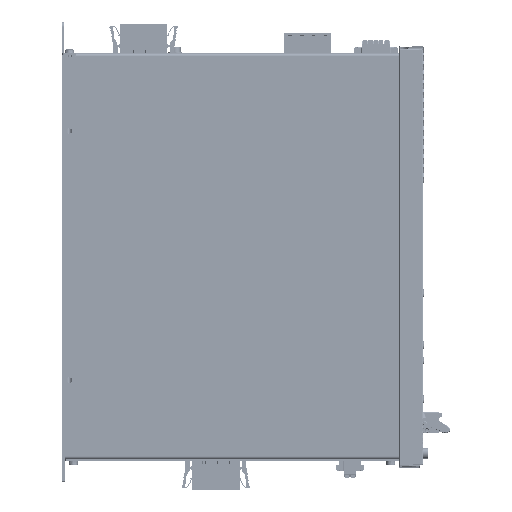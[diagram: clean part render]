
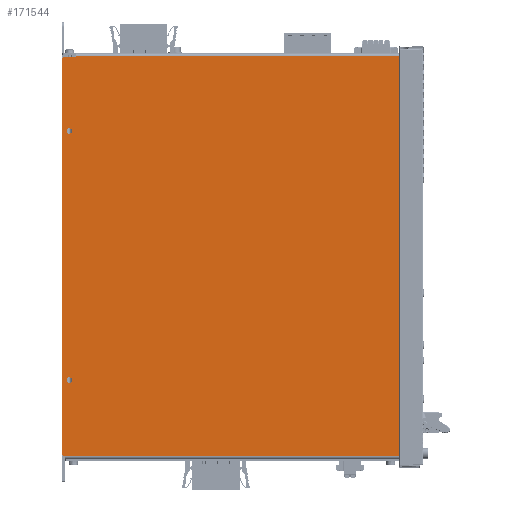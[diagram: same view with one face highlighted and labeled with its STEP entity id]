
A CAD part, left-side view. The second image highlights one B-rep face of the part: STEP entity #171544.
In plain terms, the highlighted planar face has unit normal (-1, 0, 0).
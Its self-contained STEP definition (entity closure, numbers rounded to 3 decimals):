
#83266=LINE('',#683676,#120682);
#83283=LINE('',#683721,#120699);
#83286=LINE('',#683727,#120702);
#83482=LINE('',#684172,#120898);
#85083=LINE('',#687430,#122499);
#85084=LINE('',#687432,#122500);
#85085=LINE('',#687434,#122501);
#85086=LINE('',#687435,#122502);
#85087=LINE('',#687437,#122503);
#85088=LINE('',#687439,#122504);
#85089=LINE('',#687444,#122505);
#85090=LINE('',#687446,#122506);
#85091=LINE('',#687448,#122507);
#85092=LINE('',#687449,#122508);
#85093=LINE('',#687451,#122509);
#85094=LINE('',#687453,#122510);
#120682=VECTOR('',#534880,1.);
#120699=VECTOR('',#534911,1.);
#120702=VECTOR('',#534916,1.);
#120898=VECTOR('',#535212,1.);
#122499=VECTOR('',#536957,1.);
#122500=VECTOR('',#536958,1.);
#122501=VECTOR('',#536959,1.);
#122502=VECTOR('',#536960,1.);
#122503=VECTOR('',#536961,1.);
#122504=VECTOR('',#536962,1.);
#122505=VECTOR('',#536967,1.);
#122506=VECTOR('',#536968,1.);
#122507=VECTOR('',#536969,1.);
#122508=VECTOR('',#536970,1.);
#122509=VECTOR('',#536971,1.);
#122510=VECTOR('',#536972,1.);
#171544=ADVANCED_FACE('',(#191826,#191827,#191828),#185589,.F.);
#185589=PLANE('',#450323);
#191826=FACE_BOUND('',#210436,.T.);
#191827=FACE_BOUND('',#210437,.T.);
#191828=FACE_BOUND('',#210438,.T.);
#210436=EDGE_LOOP('',(#297893));
#210437=EDGE_LOOP('',(#297894));
#210438=EDGE_LOOP('',(#297895,#297896,#297897,#297898,#297899,#297900,#297901,
#297902,#297903,#297904,#297905,#297906,#297907,#297908,#297909,#297910,
#297911,#297912));
#297893=ORIENTED_EDGE('',*,*,#396367,.T.);
#297894=ORIENTED_EDGE('',*,*,#396368,.T.);
#297895=ORIENTED_EDGE('',*,*,#396369,.F.);
#297896=ORIENTED_EDGE('',*,*,#396370,.T.);
#297897=ORIENTED_EDGE('',*,*,#396371,.T.);
#297898=ORIENTED_EDGE('',*,*,#394489,.T.);
#297899=ORIENTED_EDGE('',*,*,#396372,.T.);
#297900=ORIENTED_EDGE('',*,*,#396373,.T.);
#297901=ORIENTED_EDGE('',*,*,#396374,.F.);
#297902=ORIENTED_EDGE('',*,*,#396375,.T.);
#297903=ORIENTED_EDGE('',*,*,#394711,.F.);
#297904=ORIENTED_EDGE('',*,*,#396376,.T.);
#297905=ORIENTED_EDGE('',*,*,#396377,.T.);
#297906=ORIENTED_EDGE('',*,*,#396378,.F.);
#297907=ORIENTED_EDGE('',*,*,#396379,.T.);
#297908=ORIENTED_EDGE('',*,*,#394513,.T.);
#297909=ORIENTED_EDGE('',*,*,#396380,.F.);
#297910=ORIENTED_EDGE('',*,*,#396381,.T.);
#297911=ORIENTED_EDGE('',*,*,#396382,.T.);
#297912=ORIENTED_EDGE('',*,*,#394510,.T.);
#346143=VERTEX_POINT('',#683675);
#346144=VERTEX_POINT('',#683677);
#346163=VERTEX_POINT('',#683719);
#346165=VERTEX_POINT('',#683722);
#346167=VERTEX_POINT('',#683728);
#346168=VERTEX_POINT('',#683729);
#346365=VERTEX_POINT('',#684171);
#346366=VERTEX_POINT('',#684173);
#347949=VERTEX_POINT('',#687427);
#347950=VERTEX_POINT('',#687429);
#347951=VERTEX_POINT('',#687431);
#347952=VERTEX_POINT('',#687433);
#347953=VERTEX_POINT('',#687436);
#347954=VERTEX_POINT('',#687438);
#347955=VERTEX_POINT('',#687440);
#347956=VERTEX_POINT('',#687443);
#347957=VERTEX_POINT('',#687445);
#347958=VERTEX_POINT('',#687447);
#347959=VERTEX_POINT('',#687450);
#347960=VERTEX_POINT('',#687452);
#394489=EDGE_CURVE('',#346144,#346143,#83266,.T.);
#394510=EDGE_CURVE('',#346165,#346163,#83283,.T.);
#394513=EDGE_CURVE('',#346167,#346168,#83286,.T.);
#394711=EDGE_CURVE('',#346365,#346366,#83482,.T.);
#396367=EDGE_CURVE('',#347949,#347949,#422624,.T.);
#396368=EDGE_CURVE('',#347950,#347950,#422625,.T.);
#396369=EDGE_CURVE('',#347951,#346163,#85083,.T.);
#396370=EDGE_CURVE('',#347951,#347952,#85084,.T.);
#396371=EDGE_CURVE('',#347952,#346144,#85085,.T.);
#396372=EDGE_CURVE('',#346143,#347953,#85086,.T.);
#396373=EDGE_CURVE('',#347953,#347954,#85087,.T.);
#396374=EDGE_CURVE('',#347955,#347954,#85088,.T.);
#396375=EDGE_CURVE('',#347955,#346366,#422626,.T.);
#396376=EDGE_CURVE('',#346365,#347956,#422627,.T.);
#396377=EDGE_CURVE('',#347956,#347957,#85089,.T.);
#396378=EDGE_CURVE('',#347958,#347957,#85090,.T.);
#396379=EDGE_CURVE('',#347958,#346167,#85091,.T.);
#396380=EDGE_CURVE('',#347959,#346168,#85092,.T.);
#396381=EDGE_CURVE('',#347959,#347960,#85093,.T.);
#396382=EDGE_CURVE('',#347960,#346165,#85094,.T.);
#422624=CIRCLE('',#450319,1.75);
#422625=CIRCLE('',#450320,1.75);
#422626=CIRCLE('',#450321,1.);
#422627=CIRCLE('',#450322,1.);
#450319=AXIS2_PLACEMENT_3D('',#687426,#536953,#536954);
#450320=AXIS2_PLACEMENT_3D('',#687428,#536955,#536956);
#450321=AXIS2_PLACEMENT_3D('',#687441,#536963,#536964);
#450322=AXIS2_PLACEMENT_3D('',#687442,#536965,#536966);
#450323=AXIS2_PLACEMENT_3D('',#687454,#536973,#536974);
#534880=DIRECTION('',(0.,0.,1.));
#534911=DIRECTION('',(0.,0.,1.));
#534916=DIRECTION('',(0.,0.,1.));
#535212=DIRECTION('',(0.,0.,1.));
#536953=DIRECTION('',(1.,0.,0.));
#536954=DIRECTION('',(0.,0.,-1.));
#536955=DIRECTION('',(1.,0.,0.));
#536956=DIRECTION('',(0.,0.,-1.));
#536957=DIRECTION('',(0.,1.,0.));
#536958=DIRECTION('',(0.,0.,1.));
#536959=DIRECTION('',(0.,1.,0.));
#536960=DIRECTION('',(0.,1.,0.));
#536961=DIRECTION('',(0.,0.,-1.));
#536962=DIRECTION('',(0.,-1.,0.));
#536963=DIRECTION('',(-1.,0.,0.));
#536964=DIRECTION('',(0.,1.,0.));
#536965=DIRECTION('',(-1.,0.,0.));
#536966=DIRECTION('',(0.,1.,0.));
#536967=DIRECTION('',(0.,-1.,0.));
#536968=DIRECTION('',(0.,0.,1.));
#536969=DIRECTION('',(0.,-1.,0.));
#536970=DIRECTION('',(0.,1.,0.));
#536971=DIRECTION('',(0.,0.,1.));
#536972=DIRECTION('',(0.,1.,0.));
#536973=DIRECTION('',(1.,0.,0.));
#536974=DIRECTION('',(0.,1.,0.));
#683675=CARTESIAN_POINT('',(-11.2,-30.15,256.8));
#683676=CARTESIAN_POINT('',(-11.2,-30.15,258.8));
#683677=CARTESIAN_POINT('',(-11.2,-30.15,239.8));
#683719=CARTESIAN_POINT('',(-11.2,-30.15,231.8));
#683721=CARTESIAN_POINT('',(-11.2,-30.15,258.8));
#683722=CARTESIAN_POINT('',(-11.2,-30.15,17.3));
#683727=CARTESIAN_POINT('',(-11.2,-30.15,258.8));
#683728=CARTESIAN_POINT('',(-11.2,-30.15,-0.2));
#683729=CARTESIAN_POINT('',(-11.2,-30.15,9.3));
#684171=CARTESIAN_POINT('',(-11.2,194.85,1.3));
#684172=CARTESIAN_POINT('',(-11.2,194.85,258.8));
#684173=CARTESIAN_POINT('',(-11.2,194.85,255.3));
#687426=CARTESIAN_POINT('',(-11.2,190.35,208.8));
#687427=CARTESIAN_POINT('',(-11.2,190.35,207.05));
#687428=CARTESIAN_POINT('',(-11.2,190.35,48.8));
#687429=CARTESIAN_POINT('',(-11.2,190.35,47.05));
#687430=CARTESIAN_POINT('',(-11.2,-32.15,231.8));
#687431=CARTESIAN_POINT('',(-11.2,-31.15,231.8));
#687432=CARTESIAN_POINT('',(-11.2,-31.15,239.8));
#687433=CARTESIAN_POINT('',(-11.2,-31.15,239.8));
#687434=CARTESIAN_POINT('',(-11.2,-32.15,239.8));
#687435=CARTESIAN_POINT('',(-11.2,185.85,256.8));
#687436=CARTESIAN_POINT('',(-11.2,185.85,256.8));
#687437=CARTESIAN_POINT('',(-11.2,185.85,258.8));
#687438=CARTESIAN_POINT('',(-11.2,185.85,256.3));
#687439=CARTESIAN_POINT('',(-11.2,194.85,256.3));
#687440=CARTESIAN_POINT('',(-11.2,193.85,256.3));
#687441=CARTESIAN_POINT('',(-11.2,193.85,255.3));
#687442=CARTESIAN_POINT('',(-11.2,193.85,1.3));
#687443=CARTESIAN_POINT('',(-11.2,193.85,0.3));
#687444=CARTESIAN_POINT('',(-11.2,194.85,0.3));
#687445=CARTESIAN_POINT('',(-11.2,192.85,0.3));
#687446=CARTESIAN_POINT('',(-11.2,192.85,258.8));
#687447=CARTESIAN_POINT('',(-11.2,192.85,-0.2));
#687448=CARTESIAN_POINT('',(-11.2,-30.15,-0.2));
#687449=CARTESIAN_POINT('',(-11.2,-32.15,9.3));
#687450=CARTESIAN_POINT('',(-11.2,-31.15,9.3));
#687451=CARTESIAN_POINT('',(-11.2,-31.15,17.3));
#687452=CARTESIAN_POINT('',(-11.2,-31.15,17.3));
#687453=CARTESIAN_POINT('',(-11.2,-32.15,17.3));
#687454=CARTESIAN_POINT('',(-11.2,194.85,258.8));
